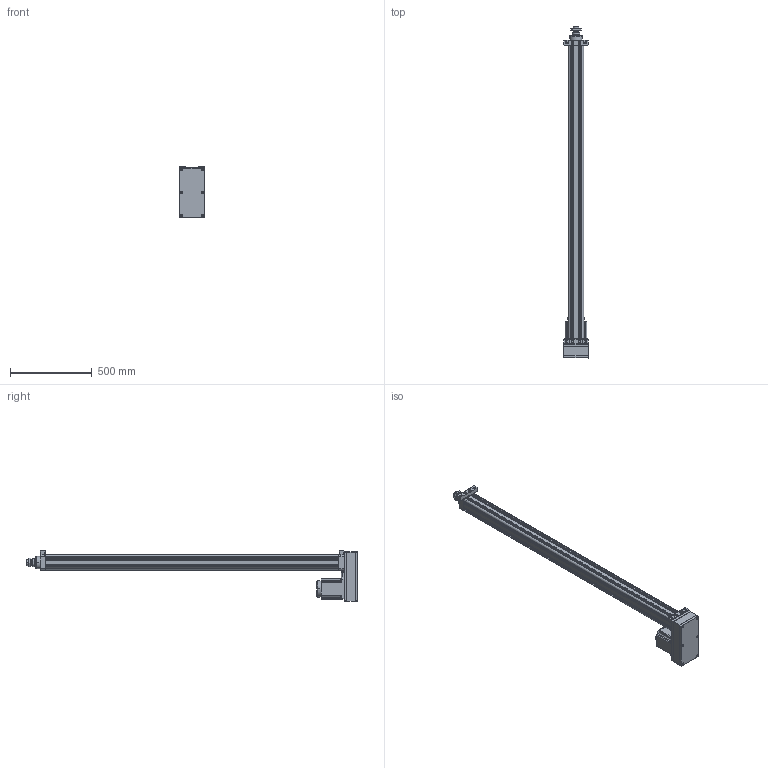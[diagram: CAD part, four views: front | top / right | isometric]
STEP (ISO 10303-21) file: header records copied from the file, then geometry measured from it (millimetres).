
FILE_DESCRIPTION((''),'2;1');
FILE_NAME('HE80-D-P_ASM','2020-04-24T',('ASUS20200'),(''),'CREO PARAMETRIC BY PTC INC, 2014190','CREO PARAMETRIC BY PTC INC, 2014190','');
FILE_SCHEMA(('CONFIG_CONTROL_DESIGN'));
Length unit declared in the file: millimetre
Products named in the file (29): HE80-D-P-001-X1; HE80-D-P-002-X1; HE80-D-P-003-X1; 30304J; YZ-M6X1; SLM-01; JDB506030; HE80-100-D-P-X1_ASM; HE80-P-010-X1-130N; 130ST-M10010; M10X25; HE80-P-009-X1-130N; HE80-P-013-X1-130N; TD-8; M8X35; M8X75; LM-M8-7-5; M10X1-25-40; LM-M10-30; LM-M10; HE80-D-P-005-X1; HE80-D-P-004-X1; HE80-D-P-008-X1; LGLM-M10-25; HE80-P-015-X1; HE80-P-016-X1; TD-10; M10X35; HE80-D-P_ASM
Assembly tree (55 placements, depth 3):
  HE80-D-P_ASM
    HE80-100-D-P-X1_ASM
      HE80-D-P-001-X1
      HE80-D-P-002-X1
      HE80-D-P-003-X1
      30304J  x2
      YZ-M6X1
      SLM-01
      JDB506030
    HE80-P-010-X1-130N
    130ST-M10010
    M10X25  x4
    HE80-P-009-X1-130N
    HE80-P-013-X1-130N
    TD-8  x4
    M8X35  x4
    M8X75  x6
    LM-M8-7-5  x4
    M10X1-25-40
    LM-M10-30
    LM-M10
    HE80-D-P-005-X1
    HE80-D-P-004-X1
    HE80-D-P-008-X1
    LGLM-M10-25  x4
    HE80-P-015-X1
    HE80-P-016-X1
    TD-10  x4
    M10X35  x4
Bounding box: 150 x 2024 x 306.5 mm (x, y, z)
Volume: 9243256.3 mm3; surface area: 2717198.1 mm2
Topology: 54 solids, 88 shells, 2294 faces, 5288 edges, 3221 vertices
Faces by surface type: plane 882, cone 648, cylinder 600, torus 134, sphere 26, bspline 4
Entity records: 50383 total; most frequent: CARTESIAN_POINT 9845, DIRECTION 8937, ORIENTED_EDGE 7758, EDGE_CURVE 3938, AXIS2_PLACEMENT_3D 3404, VERTEX_POINT 2396, VECTOR 2129, LINE 2129
